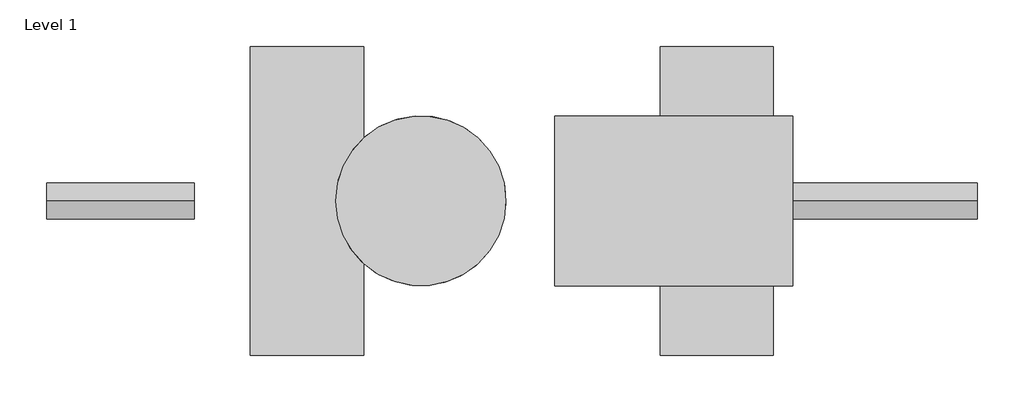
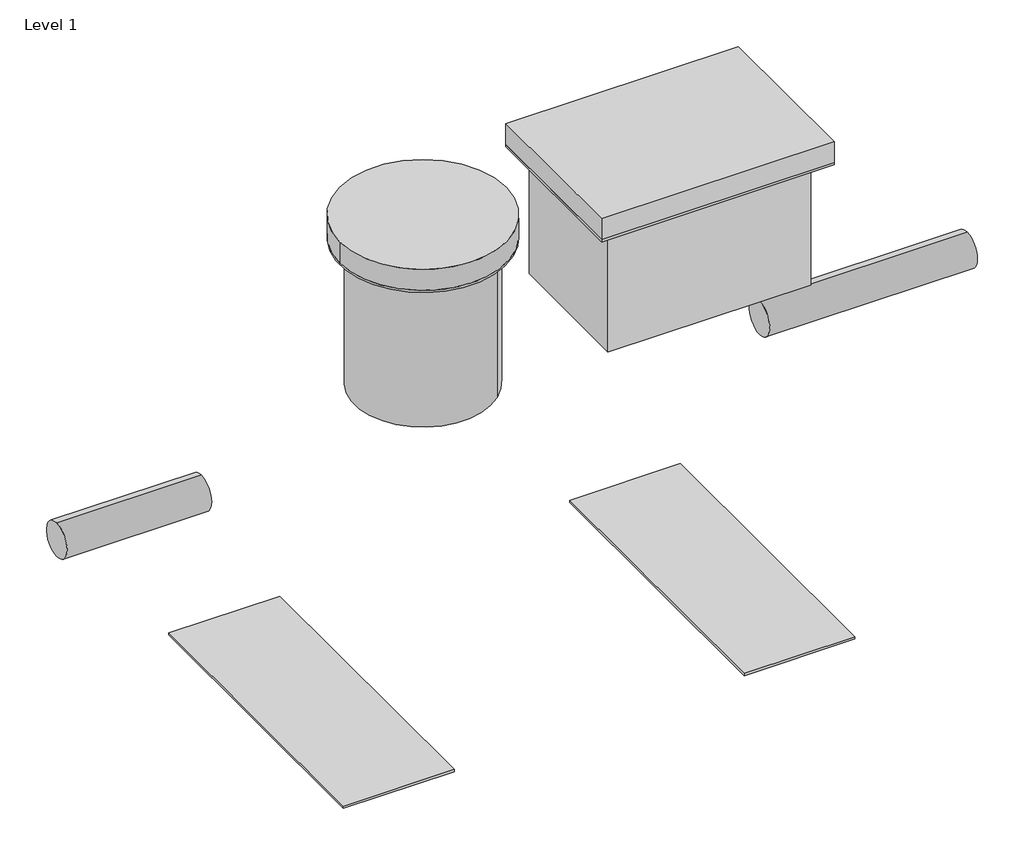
# One storey, incomplete: 8 proxies.
"""IFC4 building model written with IfcOpenShell, lengths in millimetres."""

import ifcopenshell
import ifcopenshell.guid

model = None  # the IFC model being written
_history = None  # IfcOwnerHistory: only IFC2X3 demands one
_inside = {}  # id of a spatial element -> (the spatial element, [elements in it])
_under = {}  # id of a project, library or spatial element -> (it, [spatial elements below it])
_declared = {}  # id of a project -> (the project, [libraries it declares])
_typed = {}  # id of a type object -> (the type object, [elements of that type])
_made_of = {}  # id of a material, layer set ... -> (it, [elements and type objects made of it])


def new_model(schema):
    """Start an empty IFC model of exactly this schema.

    Asked for "IFC4X3", IfcOpenShell would pick the latest addendum, in which some entities
    have other attributes; the version numbers below select the first issue.
    IFC2X3 requires an IfcOwnerHistory on every rooted entity: one is made here for all.
    """
    global model, _history
    if schema == "IFC4X3":
        model = ifcopenshell.file(schema_version=(4, 3, 0, 0))
    else:
        model = ifcopenshell.file(schema=schema)
    _inside.clear()
    _under.clear()
    _declared.clear()
    _typed.clear()
    _made_of.clear()
    _history = None
    if model.schema == "IFC2X3":
        org = make("IfcOrganization", Name="unknown")
        user = make(
            "IfcPersonAndOrganization",
            ThePerson=make("IfcPerson", FamilyName="unknown"),
            TheOrganization=org,
        )
        app = make(
            "IfcApplication",
            ApplicationDeveloper=org,
            Version="unknown",
            ApplicationFullName="unknown",
            ApplicationIdentifier="unknown",
        )
        _history = make(
            "IfcOwnerHistory",
            OwningUser=user,
            OwningApplication=app,
            ChangeAction="ADDED",
            CreationDate=0,
        )
    return model


def make(cls, **values):
    """One entity of the class cls with the attributes given. An attribute that is None is left unset."""
    return model.create_entity(
        cls, **{name: value for name, value in values.items() if value is not None}
    )


def rooted(cls, **values):
    """An entity with a GlobalId (a new one), such as an element, a storey or a relation."""
    return make(cls, GlobalId=ifcopenshell.guid.new(), OwnerHistory=_history, **values)


def si_unit(unit_type, name, prefix=None):
    """IfcSIUnit, for example si_unit("LENGTHUNIT", "METRE", prefix="MILLI")."""
    return make("IfcSIUnit", UnitType=unit_type, Prefix=prefix, Name=name)


def assignment(units):
    """IfcUnitAssignment: the units of a project."""
    return None if units is None else make("IfcUnitAssignment", Units=units)


def point(xyz):
    """IfcCartesianPoint."""
    return None if xyz is None else make("IfcCartesianPoint", Coordinates=xyz)


def direction(xyz):
    """IfcDirection."""
    return None if xyz is None else make("IfcDirection", DirectionRatios=xyz)


def frame(location, z_axis=None, x_axis=None):
    """IfcAxis2Placement3D, a coordinate frame: its origin and axes. An axis left out is left unset."""
    return make(
        "IfcAxis2Placement3D",
        Location=point(location),
        Axis=direction(z_axis),
        RefDirection=direction(x_axis),
    )


def frame_2d(location, x_axis=None):
    """IfcAxis2Placement2D, a coordinate frame in the plane: its origin and x axis."""
    return make(
        "IfcAxis2Placement2D", Location=point(location), RefDirection=direction(x_axis)
    )


def origin():
    """The frame at (0, 0, 0) with its axes left unset."""
    return frame((0.0, 0.0, 0.0))


def origin_2d():
    """The frame at (0, 0) in the plane with its x axis left unset."""
    return frame_2d((0.0, 0.0))


def place(relative_to, where):
    """IfcLocalPlacement: puts the frame where relative to a parent placement (None: the world)."""
    return make(
        "IfcLocalPlacement", PlacementRelTo=relative_to, RelativePlacement=where
    )


def context(
    kind, dimensions, precision=None, world=None, true_north=None, identifier=None
):
    """IfcGeometricRepresentationContext, for example the 3D "Model" context."""
    return make(
        "IfcGeometricRepresentationContext",
        ContextIdentifier=identifier,
        ContextType=kind,
        CoordinateSpaceDimension=dimensions,
        Precision=precision,
        WorldCoordinateSystem=world,
        TrueNorth=true_north,
    )


def project(units=None, contexts=None):
    """IfcProject with its units and contexts."""
    return rooted(
        "IfcProject",
        Name="project",
        RepresentationContexts=contexts,
        UnitsInContext=assignment(units),
    )


def spatial(cls, under=None, at=None, **own):
    """A site, building, storey or space (cls), placed at a placement, below another one or the project."""
    s = rooted(cls, ObjectPlacement=at, **own)
    if under is not None:
        _under.setdefault(under.id(), (under, []))[1].append(s)
    return s


def polyline(points):
    """IfcPolyline through the points."""
    return make("IfcPolyline", Points=[point(p) for p in points])


def circle_curve(where, radius):
    """IfcCircle in the frame where."""
    return make("IfcCircle", Position=where, Radius=radius)


def trimmed(basis, trim1, trim2, sense, master):
    """IfcTrimmedCurve: the piece of a basis curve between two trims."""
    return make(
        "IfcTrimmedCurve",
        BasisCurve=basis,
        Trim1=trim1,
        Trim2=trim2,
        SenseAgreement=sense,
        MasterRepresentation=master,
    )


def segment(curve, same_sense, transition):
    """IfcCompositeCurveSegment."""
    return make(
        "IfcCompositeCurveSegment",
        Transition=transition,
        SameSense=same_sense,
        ParentCurve=curve,
    )


def composite_curve(segments, self_intersect=None):
    """IfcCompositeCurve: segments joined end to end."""
    return make("IfcCompositeCurve", Segments=segments, SelfIntersect=self_intersect)


def outline(outer, holes=None, kind="AREA"):
    """IfcArbitraryClosedProfileDef: a profile drawn as a closed curve; with holes, ...WithVoids."""
    if holes is None:
        return make("IfcArbitraryClosedProfileDef", ProfileType=kind, OuterCurve=outer)
    return make(
        "IfcArbitraryProfileDefWithVoids",
        ProfileType=kind,
        OuterCurve=outer,
        InnerCurves=holes,
    )


def extrude(swept, where, along, depth):
    """IfcExtrudedAreaSolid: the profile swept, set in the frame where, extruded along a direction by depth."""
    return make(
        "IfcExtrudedAreaSolid",
        SweptArea=swept,
        Position=where,
        ExtrudedDirection=direction(along),
        Depth=depth,
    )


def faces_of(points, faces, orient=None, outer=None):
    """IfcFace entities. A face is a list of loops; a loop is a list of indices into points, from 0.

    orient and outer hold one flag for each loop. By default every Orientation is true, the
    first loop of a face is its IfcFaceOuterBound and the others are IfcFaceBound.
    """
    made = []
    for i, loops in enumerate(faces):
        bounds = []
        for j, loop in enumerate(loops):
            is_outer = j == 0 if outer is None else outer[i][j]
            bounds.append(
                make(
                    "IfcFaceOuterBound" if is_outer else "IfcFaceBound",
                    Bound=make("IfcPolyLoop", Polygon=[points[k] for k in loop]),
                    Orientation=True if orient is None else orient[i][j],
                )
            )
        made.append(make("IfcFace", Bounds=bounds))
    return made


def faceted_brep(points, faces, orient=None, outer=None, voids=None):
    """IfcFacetedBrep: a solid bounded by flat faces; with voids (closed shells), ...WithVoids."""
    shared = [point(p) for p in points]
    hull = make("IfcClosedShell", CfsFaces=faces_of(shared, faces, orient, outer))
    if voids is None:
        return make("IfcFacetedBrep", Outer=hull)
    return make(
        "IfcFacetedBrepWithVoids",
        Outer=hull,
        Voids=[
            make(cls, CfsFaces=faces_of(shared, fs, o, b)) for cls, fs, o, b in voids
        ],
    )


def shape(context_of_items, identifier, shape_type, items):
    """IfcShapeRepresentation: the items that make up one representation, for example the "Body"."""
    return make(
        "IfcShapeRepresentation",
        ContextOfItems=context_of_items,
        RepresentationIdentifier=identifier,
        RepresentationType=shape_type,
        Items=items,
    )


def source(mapping_origin, context_of_items, identifier, shape_type, items):
    """IfcRepresentationMap: a shape defined once, which mapped items show again and again."""
    return make(
        "IfcRepresentationMap",
        MappingOrigin=mapping_origin,
        MappedRepresentation=shape(context_of_items, identifier, shape_type, items),
    )


def transform(
    local_origin,
    x_axis=None,
    y_axis=None,
    z_axis=None,
    scale=None,
    scale2=None,
    scale3=None,
    uniform=True,
):
    """IfcCartesianTransformationOperator3D, or its non-uniform kind. x_axis, y_axis, z_axis: its Axis1, 2, 3."""
    if uniform:
        return make(
            "IfcCartesianTransformationOperator3D",
            Axis1=direction(x_axis),
            Axis2=direction(y_axis),
            LocalOrigin=point(local_origin),
            Scale=scale,
            Axis3=direction(z_axis),
        )
    return make(
        "IfcCartesianTransformationOperator3DnonUniform",
        Axis1=direction(x_axis),
        Axis2=direction(y_axis),
        LocalOrigin=point(local_origin),
        Scale=scale,
        Axis3=direction(z_axis),
        Scale2=scale2,
        Scale3=scale3,
    )


def mapped(mapping_source, mapping_target):
    """IfcMappedItem: shows the shape of a source again, moved by a transform."""
    return make(
        "IfcMappedItem", MappingSource=mapping_source, MappingTarget=mapping_target
    )


def made_of(thing, what):
    """Note that an element or type object is made of a material, layer set ...; save() writes the relation."""
    if what is not None:
        _made_of.setdefault(what.id(), (what, []))[1].append(thing)
    return thing


def element(
    cls,
    number,
    at=None,
    inside=None,
    cuts=None,
    type_object=None,
    material=None,
    context=None,
    identifier="Body",
    shape_type=None,
    held_by="IfcProductDefinitionShape",
    body=None,
    shapes=None,
    **own,
):
    """One element of the class cls, such as IfcWall. Its Tag is "e" and its number.

    at: its placement. inside: the storey or other place that contains it. cuts: it is an
    opening in that element (IfcRelVoidsElement). A single representation is given by context,
    identifier, shape_type and body (its items); several are given by shapes. held_by: the class
    of the entity that holds the representations. save() writes the other relations.
    """
    e = rooted(cls, Tag="e%d" % number, ObjectPlacement=at, **own)
    if body is not None:
        shapes = [shape(context, identifier, shape_type, body)]
    if shapes is not None:
        e.Representation = make(held_by, Representations=shapes)
    if inside is not None:
        _inside.setdefault(inside.id(), (inside, []))[1].append(e)
    if cuts is not None:
        rooted(
            "IfcRelVoidsElement", RelatingBuildingElement=cuts, RelatedOpeningElement=e
        )
    if type_object is not None:
        _typed.setdefault(type_object.id(), (type_object, []))[1].append(e)
    return made_of(e, material)


def aggregate(whole, parts):
    """IfcRelAggregates: a whole, such as a stair, and the parts it consists of."""
    return rooted("IfcRelAggregates", RelatingObject=whole, RelatedObjects=parts)


def save(model, path):
    """Write the relations noted so far, then the file.

    IfcRelAggregates (storeys below a building ...), IfcRelContainedInSpatialStructure (elements
    in a storey), IfcRelDefinesByType, IfcRelAssociatesMaterial and IfcRelDeclares: one each for
    every whole, place, type object, material and project.
    """
    for whole, parts in _under.values():
        aggregate(whole, parts)
    for where, things in _inside.values():
        rooted(
            "IfcRelContainedInSpatialStructure",
            RelatedElements=things,
            RelatingStructure=where,
        )
    for kind, things in _typed.values():
        rooted("IfcRelDefinesByType", RelatedObjects=things, RelatingType=kind)
    for what, things in _made_of.values():
        rooted("IfcRelAssociatesMaterial", RelatedObjects=things, RelatingMaterial=what)
    for by, libraries in _declared.values():
        rooted("IfcRelDeclares", RelatingContext=by, RelatedDefinitions=libraries)
    model.write(path)


def plane_surface(at):
    """IfcPlane: the flat surface through the origin of the frame at, square to its z axis."""
    return make("IfcPlane", Position=at)


def cylinder_surface(at, radius):
    """IfcCylindricalSurface: all points at the distance radius from the z axis of the frame at."""
    return make("IfcCylindricalSurface", Position=at, Radius=radius)


def advanced_brep(points, edges, surfaces, faces):
    """IfcAdvancedBrep: a solid bounded by faces that lie on surfaces and meet in shared edges.

    An edge is (start, end): straight between two places in points (the first is 0);
    or (start, end, curve); or (start, end, curve, False) where it runs against its curve.
    A face is (place in surfaces, loops), or (place, loops, False) where it looks against
    its surface's normal. A loop lists edges by number (the first is 1), with a minus sign
    where the edge is run from its end to its start. The first loop is the outer one.
    """
    corners = [point(p) for p in points]
    vertices = [make("IfcVertexPoint", VertexGeometry=c) for c in corners]
    made = []
    for start, end, *more in edges:
        made.append(
            make(
                "IfcEdgeCurve",
                EdgeStart=vertices[start],
                EdgeEnd=vertices[end],
                EdgeGeometry=more[0] if more else make("IfcPolyline", Points=[corners[start], corners[end]]),
                SameSense=more[1] if len(more) > 1 else True,
            )
        )
    hull = []
    for where, loops, *sense in faces:
        bounds = []
        for j, loop in enumerate(loops):
            ring = [make("IfcOrientedEdge", EdgeElement=made[abs(k) - 1], Orientation=k > 0) for k in loop]
            bounds.append(
                make(
                    "IfcFaceOuterBound" if j == 0 else "IfcFaceBound",
                    Bound=make("IfcEdgeLoop", EdgeList=ring),
                    Orientation=True,
                )
            )
        hull.append(make("IfcAdvancedFace", Bounds=bounds, FaceSurface=surfaces[where], SameSense=sense[0] if sense else True))
    return make("IfcAdvancedBrep", Outer=make("IfcClosedShell", CfsFaces=hull))


def generic_models_026cdfcf(model_context):
    return source(origin(), model_context, "Body", "SweptSolid", [
        extrude(outline(polyline([(-682.0, 0.0), (682.0, 0.0), (682.0, -10.0), (-682.0, -10.0), (-682.0, 0.0)])), frame((0.0, 0.0, -100.0), z_axis=(0.0, 0.0, 1.0), x_axis=(1.0, 0.0, 0.0)), (0.0, 0.0, 1.0), 500.0),
    ])


def generic_models_2a316d6d(model_context):
    return source(origin(), model_context, "Body", "SweptSolid", [
        extrude(outline(composite_curve([segment(trimmed(circle_curve(origin_2d(), 375.0), [point((0.0, 375.0))], [point((0.0, -375.0))], False, "CARTESIAN"), True, "CONTINUOUS"), segment(trimmed(circle_curve(origin_2d(), 375.0), [point((0.0, -375.0))], [point((0.0, 375.0))], False, "CARTESIAN"), True, "CONTINUOUS")], self_intersect=False)), frame((0.0, 0.0, 0.0), z_axis=(0.0, 1.0, 0.0), x_axis=(0.0, 0.0, 1.0)), (0.0, 0.0, 1.0), 100.0),
    ])


def generic_models_d9ee4f9d(model_context):
    return source(origin(), model_context, "Body", "Brep", [
        faceted_brep([(308.0, -600.0, -458.0), (308.0, -600.0, 458.0), (-308.0, -600.0, 458.0), (-308.0, -600.0, -458.0), (375.0, 0.0, -525.0), (-375.0, 0.0, -525.0), (-375.0, 0.0, 525.0), (375.0, 0.0, 525.0), (-308.0, -10.0, -458.0), (308.0, -10.0, -458.0), (-375.0, -10.0, -525.0), (375.0, -10.0, -525.0), (375.0, -10.0, 525.0), (-375.0, -10.0, 525.0), (-308.0, -10.0, 458.0), (308.0, -10.0, 458.0)], [[[0, 1, 2, 3]], [[4, 5, 6, 7]], [[0, 3, 8, 9]], [[10, 11, 12, 13], [9, 8, 14, 15]], [[3, 2, 14, 8]], [[2, 1, 15, 14]], [[0, 9, 15, 1]], [[5, 4, 11, 10]], [[6, 5, 10, 13]], [[7, 6, 13, 12]], [[4, 7, 12, 11]]]),
    ])


def generic_models_efd85da4(model_context):
    return source(origin(), model_context, "Body", "SweptSolid", [
        extrude(outline(polyline([(-375.0, 0.0), (-375.0, 100.0), (375.0, 100.0), (375.0, 0.0), (-375.0, 0.0)])), frame((0.0, 0.0, -525.0), z_axis=(0.0, 0.0, 1.0), x_axis=(1.0, 0.0, 0.0)), (0.0, 0.0, 1.0), 1050.0),
    ])


def proxy_600mm_riser_a9bc8535(model_context):
    return source(origin(), model_context, "Body", "AdvancedBrep", [
        advanced_brep(
        [(-375.0, 2490.0, 0.0), (-375.0, 2500.0, 0.0), (375.0, 2500.0, 0.0), (375.0, 2490.0, 0.0), (-308.0, 1800.0, 0.0), (-308.0, 2490.0, 0.0), (308.0, 2490.0, 0.0), (308.0, 1800.0, 0.0), (-197.9049896, 1800.0, 236.0034218)],
        [
            (0, 1),
            (1, 2, circle_curve(frame((0.0, 2500.0, 0.0), z_axis=(0.0, -1.0, 0.0), x_axis=(-1.0, 0.0, 0.0)), 375.0)),
            (2, 3),
            (3, 0, circle_curve(frame((0.0, 2490.0, 0.0), z_axis=(0.0, 1.0, 0.0), x_axis=(-1.0, 0.0, 0.0)), 375.0)),
            (4, 5),
            (5, 6, circle_curve(frame((0.0, 2490.0, 0.0), z_axis=(0.0, -1.0, 0.0), x_axis=(-1.0, 0.0, 0.0)), 308.0)),
            (6, 7),
            (7, 4, circle_curve(frame((0.0, 1800.0, 0.0), z_axis=(0.0, 1.0, 0.0), x_axis=(-1.0, 0.0, 0.0)), 308.0)),
            (1, 2, circle_curve(frame((0.0, 2500.0, 0.0), z_axis=(0.0, 1.0, 0.0), x_axis=(-1.0, 0.0, 0.0)), 375.0)),
            (7, 8, circle_curve(frame((0.0, 1800.0, 0.0), z_axis=(0.0, -1.0, 0.0), x_axis=(-1.0, 0.0, 0.0)), 308.0)),
            (8, 4, circle_curve(frame((0.0, 1800.0, 0.0), z_axis=(0.0, -1.0, 0.0), x_axis=(-1.0, 0.0, 0.0)), 308.0)),
            (6, 5, circle_curve(frame((0.0, 2490.0, 0.0), z_axis=(0.0, -1.0, 0.0), x_axis=(-1.0, 0.0, 0.0)), 308.0)),
            (3, 0, circle_curve(frame((0.0, 2490.0, 0.0), z_axis=(0.0, -1.0, 0.0), x_axis=(-1.0, 0.0, 0.0)), 375.0)),
        ],
        [
            cylinder_surface(frame((0.0, 2495.0, 0.0), z_axis=(0.0, 1.0, 0.0), x_axis=(-1.0, 0.0, 0.0)), 375.0),
            cylinder_surface(frame((0.0, 1245.0, 0.0), z_axis=(0.0, 1.0, 0.0), x_axis=(-1.0, 0.0, 0.0)), 308.0),
            plane_surface(frame((-300.0, 2500.0, 0.0), z_axis=(0.0, 1.0, 0.0), x_axis=(0.0, 0.0, 1.0))),
            plane_surface(frame((0.0, 1800.0, 0.0), z_axis=(0.0, -1.0, 0.0), x_axis=(0.766244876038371, 0.0, 0.6425486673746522))),
            plane_surface(frame((-375.0, 2490.0, 0.0), z_axis=(0.0, -1.0, 0.0), x_axis=(0.0, 0.0, -1.0))),
        ],
        [
            (0, [[1, 2, 3, 4]]),
            (1, [[5, 6, 7, 8]]),
            (2, [[9, -2]]),
            (3, [[10, 11, -8]]),
            (1, [[-5, -11, -10, -7, 12]]),
            (4, [[13, -4], [-12, -6]]),
            (0, [[-1, -13, -3, -9]]),
        ],
    ),
    ])


def iso_4065_pipe_dn160x1_3xs63_1000_ae17d09c(model_context):
    return source(origin(), model_context, "Body", "AdvancedBrep", [
        advanced_brep(
        [(63.0, -80.0, 0.0), (1000.0, -80.0, 0.0), (1000.0, 80.0, 0.0), (63.0, 80.0, 0.0), (63.0, 0.0, -80.0)],
        [
            (0, 1),
            (1, 2, circle_curve(frame((1000.0, 0.0, 0.0), z_axis=(-1.0, 0.0, 0.0), x_axis=(0.0, -1.0, 0.0)), 80.0)),
            (2, 3),
            (3, 0, circle_curve(frame((63.0, 0.0, 0.0), z_axis=(1.0, 0.0, 0.0), x_axis=(0.0, -1.0, 0.0)), 80.0)),
            (1, 2, circle_curve(frame((1000.0, 0.0, 0.0), z_axis=(1.0, 0.0, 0.0), x_axis=(0.0, -1.0, 0.0)), 80.0)),
            (3, 4, circle_curve(frame((63.0, 0.0, 0.0), z_axis=(-1.0, 0.0, 0.0), x_axis=(0.0, -1.0, 0.0)), 80.0)),
            (4, 0, circle_curve(frame((63.0, 0.0, 0.0), z_axis=(-1.0, 0.0, 0.0), x_axis=(0.0, -1.0, 0.0)), 80.0)),
        ],
        [
            cylinder_surface(frame((0.0, 0.0, 0.0), z_axis=(1.0, 0.0, 0.0), x_axis=(0.0, -1.0, 0.0)), 80.0),
            plane_surface(frame((1000.0, 0.0, 0.0), z_axis=(1.0, 0.0, 0.0), x_axis=(0.0, 0.0, 1.0))),
            plane_surface(frame((63.0, 0.0, 0.0), z_axis=(-1.0, 0.0, 0.0), x_axis=(0.0, 0.0, -1.0))),
        ],
        [
            (0, [[1, 2, 3, 4]]),
            (1, [[5, -2]]),
            (2, [[6, 7, -4]]),
            (0, [[-1, -7, -6, -3, -5]]),
        ],
    ),
    ])


def iso_4065_pipe_dn160x1_3xs63_3000_fc94910c(model_context):
    return source(origin(), model_context, "Body", "AdvancedBrep", [
        advanced_brep(
        [(0.0, -80.0, 0.0), (652.0, -80.0, 0.0), (652.0, 0.0, 80.0), (652.0, 80.0, 0.0), (0.0, 80.0, 0.0)],
        [
            (0, 1),
            (1, 2, circle_curve(frame((652.0, 0.0, 0.0), z_axis=(-1.0, 0.0, 0.0), x_axis=(0.0, -1.0, 0.0)), 80.0)),
            (2, 3, circle_curve(frame((652.0, 0.0, 0.0), z_axis=(-1.0, 0.0, 0.0), x_axis=(0.0, -1.0, 0.0)), 80.0)),
            (3, 4),
            (4, 0, circle_curve(frame((0.0, 0.0, 0.0), z_axis=(1.0, 0.0, 0.0), x_axis=(0.0, -1.0, 0.0)), 80.0)),
            (4, 0, circle_curve(frame((0.0, 0.0, 0.0), z_axis=(-1.0, 0.0, 0.0), x_axis=(0.0, -1.0, 0.0)), 80.0)),
            (1, 3, circle_curve(frame((652.0, 0.0, 0.0), z_axis=(1.0, 0.0, 0.0), x_axis=(0.0, -1.0, 0.0)), 80.0)),
        ],
        [
            cylinder_surface(frame((0.0, 0.0, 0.0), z_axis=(1.0, 0.0, 0.0), x_axis=(0.0, -1.0, 0.0)), 80.0),
            plane_surface(frame((0.0, 0.0, 0.0), z_axis=(-1.0, 0.0, 0.0), x_axis=(0.0, 0.0, 1.0))),
            plane_surface(frame((652.0, 0.0, 0.0), z_axis=(1.0, 0.0, 0.0), x_axis=(0.0, 0.0, 1.0))),
        ],
        [
            (0, [[1, 2, 3, 4, 5]]),
            (1, [[6, -5]]),
            (2, [[-3, -2, 7]]),
            (0, [[-1, -6, -4, -7]]),
        ],
    ),
    ])


model = new_model("IFC4")

# Units and contexts
model_context = context("Model", 3, world=origin())
ifc_project = project(units=[si_unit("LENGTHUNIT", "METRE", prefix="MILLI")], contexts=[model_context])

# Site, building, storey
site = spatial("IfcSite", under=ifc_project)
building = spatial("IfcBuilding", under=site)
storey = spatial("IfcBuildingStorey", under=building, Name="Level 1", Elevation=0.0)

# Proxies
placement = place(None, origin())
generic_models_shape = generic_models_026cdfcf(model_context)
element("IfcBuildingElementProxy", 1, Name="SU.HS.FOOT.1200", ObjectType="SU.HS.FOOT.1200", at=placement, inside=storey, context=model_context, shape_type="MappedRepresentation", body=[
    mapped(generic_models_shape, transform((2217.087624, 0.0, -1868.6517773), x_axis=(0.0, 1.0, 0.0), y_axis=(0.0, 0.0, 1.0), z_axis=(1.0, 0.0, 0.0))),
])
element("IfcBuildingElementProxy", 2, Name="SU.HS.FOOT.1200", ObjectType="SU.HS.FOOT.1200", at=placement, inside=storey, context=model_context, shape_type="MappedRepresentation", body=[
    mapped(generic_models_shape, transform((4025.087624, 0.0, -1868.6517773), x_axis=(0.0, 1.0, 0.0), y_axis=(0.0, 0.0, 1.0), z_axis=(1.0, 0.0, 0.0))),
])
generic_models_2_shape = generic_models_2a316d6d(model_context)
element("IfcBuildingElementProxy", 3, Name="600mm Cass D Cover-01", ObjectType="600mm Cass D Cover-01", at=placement, inside=storey, context=model_context, shape_type="MappedRepresentation", body=[
    mapped(generic_models_2_shape, transform((2870.0303078, 0.0, 178.3482227), x_axis=(1.0, 0.0, 0.0), y_axis=(0.0, 0.0, 1.0), z_axis=(0.0, -1.0, 0.0))),
])
generic_models_3_shape = generic_models_d9ee4f9d(model_context)
element("IfcBuildingElementProxy", 4, Name="600x900 - 600mm Manway Riser", ObjectType="600x900 - 600mm Manway Riser", at=placement, inside=storey, context=model_context, shape_type="MappedRepresentation", body=[
    mapped(generic_models_3_shape, transform((3985.0209294, 0.0, 178.3482227), x_axis=(0.0, 1.0, 0.0), y_axis=(0.0, 0.0, 1.0), z_axis=(1.0, 0.0, 0.0))),
])
generic_models_4_shape = generic_models_efd85da4(model_context)
element("IfcBuildingElementProxy", 5, Name="600x900mm Manway Cover-D", ObjectType="600x900mm Manway Cover-D", at=placement, inside=storey, context=model_context, shape_type="MappedRepresentation", body=[
    mapped(generic_models_4_shape, transform((3985.0209294, 0.0, 178.3482227), x_axis=(0.0, 1.0, 0.0), y_axis=(0.0, 0.0, 1.0), z_axis=(1.0, 0.0, 0.0))),
])
proxy_600mm_riser_shape = proxy_600mm_riser_a9bc8535(model_context)
element("IfcBuildingElementProxy", 6, Name="600mm Riser", ObjectType="600mm Riser", at=placement, inside=storey, context=model_context, shape_type="MappedRepresentation", body=[
    mapped(proxy_600mm_riser_shape, transform((2870.0303078, 0.0, -2321.6517773), x_axis=(-0.6425486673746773, 0.7662448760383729, 0.0), y_axis=(0.0, 0.0, 0.9999999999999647), z_axis=(0.7662448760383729, 0.6425486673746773, 0.0))),
])
iso_4065_pipe_dn160x1_3xs63_1000_shape = iso_4065_pipe_dn160x1_3xs63_1000_ae17d09c(model_context)
element("IfcBuildingElementProxy", 7, Name="ISO 4065 Pipe DN160x1.3xS63 - 1000", ObjectType="ISO 4065 Pipe DN160x1.3xS63 - 1000", at=placement, inside=storey, context=model_context, shape_type="MappedRepresentation", body=[
    mapped(iso_4065_pipe_dn160x1_3xs63_1000_shape, transform((5388.687596, 0.0, -745.6517773), x_axis=(-1.0, 0.0, 0.0), y_axis=(0.0, 0.0, -1.0), z_axis=(0.0, -1.0, 0.0))),
])
iso_4065_pipe_dn160x1_3xs63_3000_shape = iso_4065_pipe_dn160x1_3xs63_3000_fc94910c(model_context)
element("IfcBuildingElementProxy", 8, Name="ISO 4065 Pipe DN160x1.3xS63 - 3000", ObjectType="ISO 4065 Pipe DN160x1.3xS63 - 3000", at=placement, inside=storey, context=model_context, shape_type="MappedRepresentation", body=[
    mapped(iso_4065_pipe_dn160x1_3xs63_3000_shape, transform((1870.0000924, 0.0, -695.6517773), x_axis=(-1.0, 0.0, 0.0), y_axis=(0.0, 0.0, -1.0), z_axis=(0.0, -1.0, 0.0))),
])

save(model, "model.ifc")
